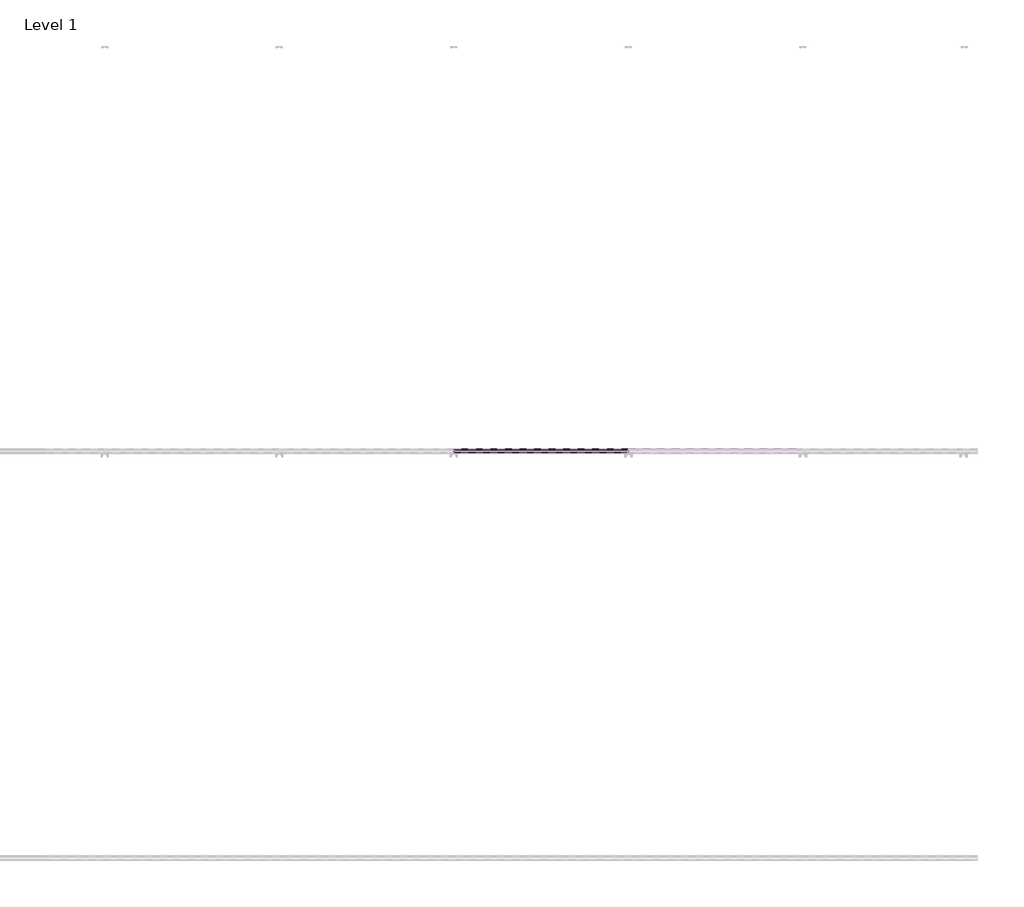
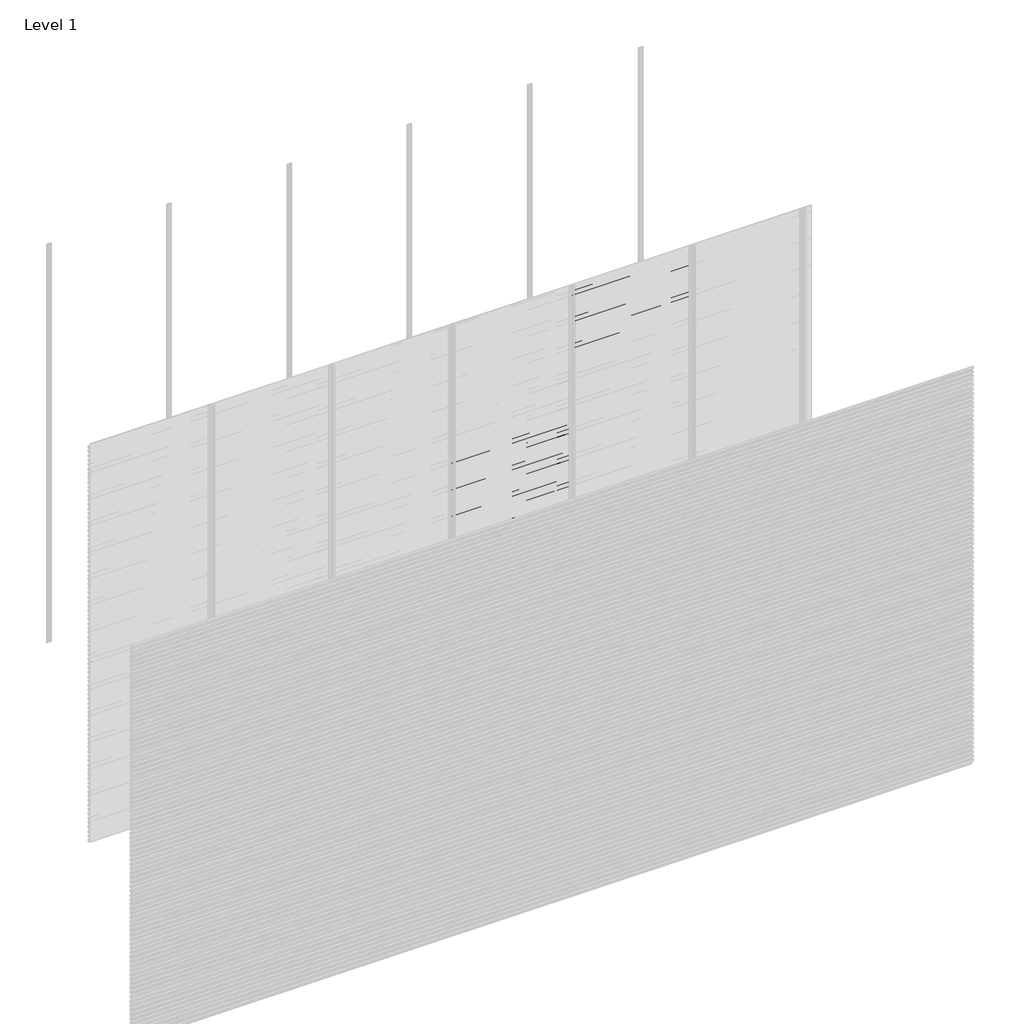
# One storey, part 85 of 96: 77 proxies.
"""IFC4 building model written with IfcOpenShell, lengths in millimetres."""

import ifcopenshell
import ifcopenshell.guid

model = None  # the IFC model being written
_history = None  # IfcOwnerHistory: only IFC2X3 demands one
_inside = {}  # id of a spatial element -> (the spatial element, [elements in it])
_under = {}  # id of a project, library or spatial element -> (it, [spatial elements below it])
_declared = {}  # id of a project -> (the project, [libraries it declares])
_typed = {}  # id of a type object -> (the type object, [elements of that type])
_made_of = {}  # id of a material, layer set ... -> (it, [elements and type objects made of it])


def new_model(schema):
    """Start an empty IFC model of exactly this schema.

    Asked for "IFC4X3", IfcOpenShell would pick the latest addendum, in which some entities
    have other attributes; the version numbers below select the first issue.
    IFC2X3 requires an IfcOwnerHistory on every rooted entity: one is made here for all.
    """
    global model, _history
    if schema == "IFC4X3":
        model = ifcopenshell.file(schema_version=(4, 3, 0, 0))
    else:
        model = ifcopenshell.file(schema=schema)
    _inside.clear()
    _under.clear()
    _declared.clear()
    _typed.clear()
    _made_of.clear()
    _history = None
    if model.schema == "IFC2X3":
        org = make("IfcOrganization", Name="unknown")
        user = make(
            "IfcPersonAndOrganization",
            ThePerson=make("IfcPerson", FamilyName="unknown"),
            TheOrganization=org,
        )
        app = make(
            "IfcApplication",
            ApplicationDeveloper=org,
            Version="unknown",
            ApplicationFullName="unknown",
            ApplicationIdentifier="unknown",
        )
        _history = make(
            "IfcOwnerHistory",
            OwningUser=user,
            OwningApplication=app,
            ChangeAction="ADDED",
            CreationDate=0,
        )
    return model


def make(cls, **values):
    """One entity of the class cls with the attributes given. An attribute that is None is left unset."""
    return model.create_entity(
        cls, **{name: value for name, value in values.items() if value is not None}
    )


def rooted(cls, **values):
    """An entity with a GlobalId (a new one), such as an element, a storey or a relation."""
    return make(cls, GlobalId=ifcopenshell.guid.new(), OwnerHistory=_history, **values)


def si_unit(unit_type, name, prefix=None):
    """IfcSIUnit, for example si_unit("LENGTHUNIT", "METRE", prefix="MILLI")."""
    return make("IfcSIUnit", UnitType=unit_type, Prefix=prefix, Name=name)


def assignment(units):
    """IfcUnitAssignment: the units of a project."""
    return None if units is None else make("IfcUnitAssignment", Units=units)


def point(xyz):
    """IfcCartesianPoint."""
    return None if xyz is None else make("IfcCartesianPoint", Coordinates=xyz)


def direction(xyz):
    """IfcDirection."""
    return None if xyz is None else make("IfcDirection", DirectionRatios=xyz)


def frame(location, z_axis=None, x_axis=None):
    """IfcAxis2Placement3D, a coordinate frame: its origin and axes. An axis left out is left unset."""
    return make(
        "IfcAxis2Placement3D",
        Location=point(location),
        Axis=direction(z_axis),
        RefDirection=direction(x_axis),
    )


def origin():
    """The frame at (0, 0, 0) with its axes left unset."""
    return frame((0.0, 0.0, 0.0))


def place(relative_to, where):
    """IfcLocalPlacement: puts the frame where relative to a parent placement (None: the world)."""
    return make(
        "IfcLocalPlacement", PlacementRelTo=relative_to, RelativePlacement=where
    )


def context(
    kind, dimensions, precision=None, world=None, true_north=None, identifier=None
):
    """IfcGeometricRepresentationContext, for example the 3D "Model" context."""
    return make(
        "IfcGeometricRepresentationContext",
        ContextIdentifier=identifier,
        ContextType=kind,
        CoordinateSpaceDimension=dimensions,
        Precision=precision,
        WorldCoordinateSystem=world,
        TrueNorth=true_north,
    )


def project(units=None, contexts=None):
    """IfcProject with its units and contexts."""
    return rooted(
        "IfcProject",
        Name="project",
        RepresentationContexts=contexts,
        UnitsInContext=assignment(units),
    )


def spatial(cls, under=None, at=None, **own):
    """A site, building, storey or space (cls), placed at a placement, below another one or the project."""
    s = rooted(cls, ObjectPlacement=at, **own)
    if under is not None:
        _under.setdefault(under.id(), (under, []))[1].append(s)
    return s


def polyline(points):
    """IfcPolyline through the points."""
    return make("IfcPolyline", Points=[point(p) for p in points])


def outline(outer, holes=None, kind="AREA"):
    """IfcArbitraryClosedProfileDef: a profile drawn as a closed curve; with holes, ...WithVoids."""
    if holes is None:
        return make("IfcArbitraryClosedProfileDef", ProfileType=kind, OuterCurve=outer)
    return make(
        "IfcArbitraryProfileDefWithVoids",
        ProfileType=kind,
        OuterCurve=outer,
        InnerCurves=holes,
    )


def extrude(swept, where, along, depth):
    """IfcExtrudedAreaSolid: the profile swept, set in the frame where, extruded along a direction by depth."""
    return make(
        "IfcExtrudedAreaSolid",
        SweptArea=swept,
        Position=where,
        ExtrudedDirection=direction(along),
        Depth=depth,
    )


def shape(context_of_items, identifier, shape_type, items):
    """IfcShapeRepresentation: the items that make up one representation, for example the "Body"."""
    return make(
        "IfcShapeRepresentation",
        ContextOfItems=context_of_items,
        RepresentationIdentifier=identifier,
        RepresentationType=shape_type,
        Items=items,
    )


def made_of(thing, what):
    """Note that an element or type object is made of a material, layer set ...; save() writes the relation."""
    if what is not None:
        _made_of.setdefault(what.id(), (what, []))[1].append(thing)
    return thing


def element(
    cls,
    number,
    at=None,
    inside=None,
    cuts=None,
    type_object=None,
    material=None,
    context=None,
    identifier="Body",
    shape_type=None,
    held_by="IfcProductDefinitionShape",
    body=None,
    shapes=None,
    **own,
):
    """One element of the class cls, such as IfcWall. Its Tag is "e" and its number.

    at: its placement. inside: the storey or other place that contains it. cuts: it is an
    opening in that element (IfcRelVoidsElement). A single representation is given by context,
    identifier, shape_type and body (its items); several are given by shapes. held_by: the class
    of the entity that holds the representations. save() writes the other relations.
    """
    e = rooted(cls, Tag="e%d" % number, ObjectPlacement=at, **own)
    if body is not None:
        shapes = [shape(context, identifier, shape_type, body)]
    if shapes is not None:
        e.Representation = make(held_by, Representations=shapes)
    if inside is not None:
        _inside.setdefault(inside.id(), (inside, []))[1].append(e)
    if cuts is not None:
        rooted(
            "IfcRelVoidsElement", RelatingBuildingElement=cuts, RelatedOpeningElement=e
        )
    if type_object is not None:
        _typed.setdefault(type_object.id(), (type_object, []))[1].append(e)
    return made_of(e, material)


def aggregate(whole, parts):
    """IfcRelAggregates: a whole, such as a stair, and the parts it consists of."""
    return rooted("IfcRelAggregates", RelatingObject=whole, RelatedObjects=parts)


def save(model, path):
    """Write the relations noted so far, then the file.

    IfcRelAggregates (storeys below a building ...), IfcRelContainedInSpatialStructure (elements
    in a storey), IfcRelDefinesByType, IfcRelAssociatesMaterial and IfcRelDeclares: one each for
    every whole, place, type object, material and project.
    """
    for whole, parts in _under.values():
        aggregate(whole, parts)
    for where, things in _inside.values():
        rooted(
            "IfcRelContainedInSpatialStructure",
            RelatedElements=things,
            RelatingStructure=where,
        )
    for kind, things in _typed.values():
        rooted("IfcRelDefinesByType", RelatedObjects=things, RelatingType=kind)
    for what, things in _made_of.values():
        rooted("IfcRelAssociatesMaterial", RelatedObjects=things, RelatingMaterial=what)
    for by, libraries in _declared.values():
        rooted("IfcRelDeclares", RelatingContext=by, RelatedDefinitions=libraries)
    model.write(path)


model = new_model("IFC4")

# Units and contexts
model_context = context("Model", 3, world=origin())
ifc_project = project(units=[si_unit("LENGTHUNIT", "METRE", prefix="MILLI")], contexts=[model_context])

# Site, building, storey
site = spatial("IfcSite", under=ifc_project)
building = spatial("IfcBuilding", under=site)
storey = spatial("IfcBuildingStorey", under=building, Name="Level 1", Elevation=0.0)

# Proxies
placement = place(None, origin())
element("IfcBuildingElementProxy", 1, Name="Wall Sweeps", at=placement, inside=storey, context=model_context, shape_type="SweptSolid", body=[
    extrude(outline(polyline([(-5977.6, 2006.0655033), (-5977.6, 1991.7779188), (-5982.4114965, 1989.0), (-5982.4114965, 1990.2701706), (-5978.85, 1992.3264016), (-5978.85, 2005.3437382), (-5998.0, 2016.4000799), (-5998.0, 2031.3), (-5996.75, 2031.3), (-5996.75, 2017.1217609), (-5977.6, 2006.0655033)])), frame((3428.5714286, 0.0, 0.0), z_axis=(1.0, 0.0, 0.0), x_axis=(0.0, 1.0, 0.0)), (0.0, 0.0, 1.0), 857.1428571),
])
element("IfcBuildingElementProxy", 2, Name="Wall Sweeps", at=placement, inside=storey, context=model_context, shape_type="SweptSolid", body=[
    extrude(outline(polyline([(-5977.6, 1972.7655033), (-5977.6, 1958.4779188), (-5982.4114965, 1955.7), (-5982.4114965, 1956.9701706), (-5978.85, 1959.0264016), (-5978.85, 1972.0437382), (-5998.0, 1983.1000799), (-5998.0, 1998.0), (-5996.75, 1998.0), (-5996.75, 1983.8217609), (-5977.6, 1972.7655033)])), frame((3428.5714286, 0.0, 0.0), z_axis=(1.0, 0.0, 0.0), x_axis=(0.0, 1.0, 0.0)), (0.0, 0.0, 1.0), 857.1428571),
])
element("IfcBuildingElementProxy", 3, Name="Wall Sweeps", at=placement, inside=storey, context=model_context, shape_type="SweptSolid", body=[
    extrude(outline(polyline([(-5977.6, 1939.4655033), (-5977.6, 1925.1779188), (-5982.4114965, 1922.4), (-5982.4114965, 1923.6701706), (-5978.85, 1925.7264016), (-5978.85, 1938.7437382), (-5998.0, 1949.8000799), (-5998.0, 1964.7), (-5996.75, 1964.7), (-5996.75, 1950.5217609), (-5977.6, 1939.4655033)])), frame((3428.5714286, 0.0, 0.0), z_axis=(1.0, 0.0, 0.0), x_axis=(0.0, 1.0, 0.0)), (0.0, 0.0, 1.0), 857.1428571),
])
element("IfcBuildingElementProxy", 4, Name="Wall Sweeps", at=placement, inside=storey, context=model_context, shape_type="SweptSolid", body=[
    extrude(outline(polyline([(-5977.6, 1906.1655033), (-5977.6, 1891.8779188), (-5982.4114965, 1889.1), (-5982.4114965, 1890.3701706), (-5978.85, 1892.4264016), (-5978.85, 1905.4437382), (-5998.0, 1916.5000799), (-5998.0, 1931.4), (-5996.75, 1931.4), (-5996.75, 1917.2217609), (-5977.6, 1906.1655033)])), frame((3428.5714286, 0.0, 0.0), z_axis=(1.0, 0.0, 0.0), x_axis=(0.0, 1.0, 0.0)), (0.0, 0.0, 1.0), 857.1428571),
])
element("IfcBuildingElementProxy", 5, Name="Wall Sweeps", at=placement, inside=storey, context=model_context, shape_type="SweptSolid", body=[
    extrude(outline(polyline([(-5977.6, 1872.8655033), (-5977.6, 1858.5779188), (-5982.4114965, 1855.8), (-5982.4114965, 1857.0701706), (-5978.85, 1859.1264016), (-5978.85, 1872.1437382), (-5998.0, 1883.2000799), (-5998.0, 1898.1), (-5996.75, 1898.1), (-5996.75, 1883.9217609), (-5977.6, 1872.8655033)])), frame((3428.5714286, 0.0, 0.0), z_axis=(1.0, 0.0, 0.0), x_axis=(0.0, 1.0, 0.0)), (0.0, 0.0, 1.0), 857.1428571),
])
element("IfcBuildingElementProxy", 6, Name="Wall Sweeps", at=placement, inside=storey, context=model_context, shape_type="SweptSolid", body=[
    extrude(outline(polyline([(-5977.6, 1839.5655033), (-5977.6, 1825.2779188), (-5982.4114965, 1822.5), (-5982.4114965, 1823.7701706), (-5978.85, 1825.8264016), (-5978.85, 1838.8437382), (-5998.0, 1849.9000799), (-5998.0, 1864.8), (-5996.75, 1864.8), (-5996.75, 1850.6217609), (-5977.6, 1839.5655033)])), frame((3428.5714286, 0.0, 0.0), z_axis=(1.0, 0.0, 0.0), x_axis=(0.0, 1.0, 0.0)), (0.0, 0.0, 1.0), 857.1428571),
])
element("IfcBuildingElementProxy", 7, Name="Wall Sweeps", at=placement, inside=storey, context=model_context, shape_type="SweptSolid", body=[
    extrude(outline(polyline([(-5977.6, 1806.2655033), (-5977.6, 1791.9779188), (-5982.4114965, 1789.2), (-5982.4114965, 1790.4701706), (-5978.85, 1792.5264016), (-5978.85, 1805.5437382), (-5998.0, 1816.6000799), (-5998.0, 1831.5), (-5996.75, 1831.5), (-5996.75, 1817.3217609), (-5977.6, 1806.2655033)])), frame((3428.5714286, 0.0, 0.0), z_axis=(1.0, 0.0, 0.0), x_axis=(0.0, 1.0, 0.0)), (0.0, 0.0, 1.0), 857.1428571),
])
element("IfcBuildingElementProxy", 8, Name="Wall Sweeps", at=placement, inside=storey, context=model_context, shape_type="SweptSolid", body=[
    extrude(outline(polyline([(-5977.6, 1772.9655033), (-5977.6, 1758.6779188), (-5982.4114965, 1755.9), (-5982.4114965, 1757.1701706), (-5978.85, 1759.2264016), (-5978.85, 1772.2437382), (-5998.0, 1783.3000799), (-5998.0, 1798.2), (-5996.75, 1798.2), (-5996.75, 1784.0217609), (-5977.6, 1772.9655033)])), frame((3428.5714286, 0.0, 0.0), z_axis=(1.0, 0.0, 0.0), x_axis=(0.0, 1.0, 0.0)), (0.0, 0.0, 1.0), 857.1428571),
])
element("IfcBuildingElementProxy", 9, Name="Wall Sweeps", at=placement, inside=storey, context=model_context, shape_type="SweptSolid", body=[
    extrude(outline(polyline([(-5977.6, 1739.6655033), (-5977.6, 1725.3779188), (-5982.4114965, 1722.6), (-5982.4114965, 1723.8701706), (-5978.85, 1725.9264016), (-5978.85, 1738.9437382), (-5998.0, 1750.0000799), (-5998.0, 1764.9), (-5996.75, 1764.9), (-5996.75, 1750.7217609), (-5977.6, 1739.6655033)])), frame((3428.5714286, 0.0, 0.0), z_axis=(1.0, 0.0, 0.0), x_axis=(0.0, 1.0, 0.0)), (0.0, 0.0, 1.0), 857.1428571),
])
element("IfcBuildingElementProxy", 10, Name="Wall Sweeps", at=placement, inside=storey, context=model_context, shape_type="SweptSolid", body=[
    extrude(outline(polyline([(-5977.6, 1706.3655033), (-5977.6, 1692.0779188), (-5982.4114965, 1689.3), (-5982.4114965, 1690.5701706), (-5978.85, 1692.6264016), (-5978.85, 1705.6437382), (-5998.0, 1716.7000799), (-5998.0, 1731.6), (-5996.75, 1731.6), (-5996.75, 1717.4217609), (-5977.6, 1706.3655033)])), frame((3428.5714286, 0.0, 0.0), z_axis=(1.0, 0.0, 0.0), x_axis=(0.0, 1.0, 0.0)), (0.0, 0.0, 1.0), 857.1428571),
])
element("IfcBuildingElementProxy", 11, Name="Wall Sweeps", at=placement, inside=storey, context=model_context, shape_type="SweptSolid", body=[
    extrude(outline(polyline([(-5977.6, 1673.0655033), (-5977.6, 1658.7779188), (-5982.4114965, 1656.0), (-5982.4114965, 1657.2701706), (-5978.85, 1659.3264016), (-5978.85, 1672.3437382), (-5998.0, 1683.4000799), (-5998.0, 1698.3), (-5996.75, 1698.3), (-5996.75, 1684.1217609), (-5977.6, 1673.0655033)])), frame((3428.5714286, 0.0, 0.0), z_axis=(1.0, 0.0, 0.0), x_axis=(0.0, 1.0, 0.0)), (0.0, 0.0, 1.0), 857.1428571),
])
element("IfcBuildingElementProxy", 12, Name="Wall Sweeps", at=placement, inside=storey, context=model_context, shape_type="SweptSolid", body=[
    extrude(outline(polyline([(-5977.6, 1639.7655033), (-5977.6, 1625.4779188), (-5982.4114965, 1622.7), (-5982.4114965, 1623.9701706), (-5978.85, 1626.0264016), (-5978.85, 1639.0437382), (-5998.0, 1650.1000799), (-5998.0, 1665.0), (-5996.75, 1665.0), (-5996.75, 1650.8217609), (-5977.6, 1639.7655033)])), frame((3428.5714286, 0.0, 0.0), z_axis=(1.0, 0.0, 0.0), x_axis=(0.0, 1.0, 0.0)), (0.0, 0.0, 1.0), 857.1428571),
])
element("IfcBuildingElementProxy", 13, Name="Wall Sweeps", at=placement, inside=storey, context=model_context, shape_type="SweptSolid", body=[
    extrude(outline(polyline([(-5977.6, 1606.4655033), (-5977.6, 1592.1779188), (-5982.4114965, 1589.4), (-5982.4114965, 1590.6701706), (-5978.85, 1592.7264016), (-5978.85, 1605.7437382), (-5998.0, 1616.8000799), (-5998.0, 1631.7), (-5996.75, 1631.7), (-5996.75, 1617.5217609), (-5977.6, 1606.4655033)])), frame((3428.5714286, 0.0, 0.0), z_axis=(1.0, 0.0, 0.0), x_axis=(0.0, 1.0, 0.0)), (0.0, 0.0, 1.0), 857.1428571),
])
element("IfcBuildingElementProxy", 14, Name="Wall Sweeps", at=placement, inside=storey, context=model_context, shape_type="SweptSolid", body=[
    extrude(outline(polyline([(-5977.6, 1573.1655033), (-5977.6, 1558.8779188), (-5982.4114965, 1556.1), (-5982.4114965, 1557.3701706), (-5978.85, 1559.4264016), (-5978.85, 1572.4437382), (-5998.0, 1583.5000799), (-5998.0, 1598.4), (-5996.75, 1598.4), (-5996.75, 1584.2217609), (-5977.6, 1573.1655033)])), frame((3428.5714286, 0.0, 0.0), z_axis=(1.0, 0.0, 0.0), x_axis=(0.0, 1.0, 0.0)), (0.0, 0.0, 1.0), 857.1428571),
])
element("IfcBuildingElementProxy", 15, Name="Wall Sweeps", at=placement, inside=storey, context=model_context, shape_type="SweptSolid", body=[
    extrude(outline(polyline([(-5977.6, 1539.8655033), (-5977.6, 1525.5779188), (-5982.4114965, 1522.8), (-5982.4114965, 1524.0701706), (-5978.85, 1526.1264016), (-5978.85, 1539.1437382), (-5998.0, 1550.2000799), (-5998.0, 1565.1), (-5996.75, 1565.1), (-5996.75, 1550.9217609), (-5977.6, 1539.8655033)])), frame((3428.5714286, 0.0, 0.0), z_axis=(1.0, 0.0, 0.0), x_axis=(0.0, 1.0, 0.0)), (0.0, 0.0, 1.0), 857.1428571),
])
element("IfcBuildingElementProxy", 16, Name="Wall Sweeps", at=placement, inside=storey, context=model_context, shape_type="SweptSolid", body=[
    extrude(outline(polyline([(-5977.6, 1506.5655033), (-5977.6, 1492.2779188), (-5982.4114965, 1489.5), (-5982.4114965, 1490.7701706), (-5978.85, 1492.8264016), (-5978.85, 1505.8437382), (-5998.0, 1516.9000799), (-5998.0, 1531.8), (-5996.75, 1531.8), (-5996.75, 1517.6217609), (-5977.6, 1506.5655033)])), frame((3428.5714286, 0.0, 0.0), z_axis=(1.0, 0.0, 0.0), x_axis=(0.0, 1.0, 0.0)), (0.0, 0.0, 1.0), 857.1428571),
])
element("IfcBuildingElementProxy", 17, Name="Wall Sweeps", at=placement, inside=storey, context=model_context, shape_type="SweptSolid", body=[
    extrude(outline(polyline([(-5977.6, 1473.2655033), (-5977.6, 1458.9779188), (-5982.4114965, 1456.2), (-5982.4114965, 1457.4701706), (-5978.85, 1459.5264016), (-5978.85, 1472.5437382), (-5998.0, 1483.6000799), (-5998.0, 1498.5), (-5996.75, 1498.5), (-5996.75, 1484.3217609), (-5977.6, 1473.2655033)])), frame((3428.5714286, 0.0, 0.0), z_axis=(1.0, 0.0, 0.0), x_axis=(0.0, 1.0, 0.0)), (0.0, 0.0, 1.0), 857.1428571),
])
element("IfcBuildingElementProxy", 18, Name="Wall Sweeps", at=placement, inside=storey, context=model_context, shape_type="SweptSolid", body=[
    extrude(outline(polyline([(-5977.6, 1439.9655033), (-5977.6, 1425.6779188), (-5982.4114965, 1422.9), (-5982.4114965, 1424.1701706), (-5978.85, 1426.2264016), (-5978.85, 1439.2437382), (-5998.0, 1450.3000799), (-5998.0, 1465.2), (-5996.75, 1465.2), (-5996.75, 1451.0217609), (-5977.6, 1439.9655033)])), frame((3428.5714286, 0.0, 0.0), z_axis=(1.0, 0.0, 0.0), x_axis=(0.0, 1.0, 0.0)), (0.0, 0.0, 1.0), 857.1428571),
])
element("IfcBuildingElementProxy", 19, Name="Wall Sweeps", at=placement, inside=storey, context=model_context, shape_type="SweptSolid", body=[
    extrude(outline(polyline([(-5977.6, 1406.6655033), (-5977.6, 1392.3779188), (-5982.4114965, 1389.6), (-5982.4114965, 1390.8701706), (-5978.85, 1392.9264016), (-5978.85, 1405.9437382), (-5998.0, 1417.0000799), (-5998.0, 1431.9), (-5996.75, 1431.9), (-5996.75, 1417.7217609), (-5977.6, 1406.6655033)])), frame((3428.5714286, 0.0, 0.0), z_axis=(1.0, 0.0, 0.0), x_axis=(0.0, 1.0, 0.0)), (0.0, 0.0, 1.0), 857.1428571),
])
element("IfcBuildingElementProxy", 20, Name="Wall Sweeps", at=placement, inside=storey, context=model_context, shape_type="SweptSolid", body=[
    extrude(outline(polyline([(-5977.6, 1373.3655033), (-5977.6, 1359.0779188), (-5982.4114965, 1356.3), (-5982.4114965, 1357.5701706), (-5978.85, 1359.6264016), (-5978.85, 1372.6437382), (-5998.0, 1383.7000799), (-5998.0, 1398.6), (-5996.75, 1398.6), (-5996.75, 1384.4217609), (-5977.6, 1373.3655033)])), frame((3428.5714286, 0.0, 0.0), z_axis=(1.0, 0.0, 0.0), x_axis=(0.0, 1.0, 0.0)), (0.0, 0.0, 1.0), 857.1428571),
])
element("IfcBuildingElementProxy", 21, Name="Wall Sweeps", at=placement, inside=storey, context=model_context, shape_type="SweptSolid", body=[
    extrude(outline(polyline([(-5977.6, 1340.0655033), (-5977.6, 1325.7779188), (-5982.4114965, 1323.0), (-5982.4114965, 1324.2701706), (-5978.85, 1326.3264016), (-5978.85, 1339.3437382), (-5998.0, 1350.4000799), (-5998.0, 1365.3), (-5996.75, 1365.3), (-5996.75, 1351.1217609), (-5977.6, 1340.0655033)])), frame((3428.5714286, 0.0, 0.0), z_axis=(1.0, 0.0, 0.0), x_axis=(0.0, 1.0, 0.0)), (0.0, 0.0, 1.0), 857.1428571),
])
element("IfcBuildingElementProxy", 22, Name="Wall Sweeps", at=placement, inside=storey, context=model_context, shape_type="SweptSolid", body=[
    extrude(outline(polyline([(-5977.6, 1306.7655033), (-5977.6, 1292.4779188), (-5982.4114965, 1289.7), (-5982.4114965, 1290.9701706), (-5978.85, 1293.0264016), (-5978.85, 1306.0437382), (-5998.0, 1317.1000799), (-5998.0, 1332.0), (-5996.75, 1332.0), (-5996.75, 1317.8217609), (-5977.6, 1306.7655033)])), frame((3428.5714286, 0.0, 0.0), z_axis=(1.0, 0.0, 0.0), x_axis=(0.0, 1.0, 0.0)), (0.0, 0.0, 1.0), 857.1428571),
])
element("IfcBuildingElementProxy", 23, Name="Wall Sweeps", at=placement, inside=storey, context=model_context, shape_type="SweptSolid", body=[
    extrude(outline(polyline([(-5977.6, 1273.4655033), (-5977.6, 1259.1779188), (-5982.4114965, 1256.4), (-5982.4114965, 1257.6701706), (-5978.85, 1259.7264016), (-5978.85, 1272.7437382), (-5998.0, 1283.8000799), (-5998.0, 1298.7), (-5996.75, 1298.7), (-5996.75, 1284.5217609), (-5977.6, 1273.4655033)])), frame((3428.5714286, 0.0, 0.0), z_axis=(1.0, 0.0, 0.0), x_axis=(0.0, 1.0, 0.0)), (0.0, 0.0, 1.0), 857.1428571),
])
element("IfcBuildingElementProxy", 24, Name="Wall Sweeps", at=placement, inside=storey, context=model_context, shape_type="SweptSolid", body=[
    extrude(outline(polyline([(-5977.6, 1240.1655033), (-5977.6, 1225.8779188), (-5982.4114965, 1223.1), (-5982.4114965, 1224.3701706), (-5978.85, 1226.4264016), (-5978.85, 1239.4437382), (-5998.0, 1250.5000799), (-5998.0, 1265.4), (-5996.75, 1265.4), (-5996.75, 1251.2217609), (-5977.6, 1240.1655033)])), frame((3428.5714286, 0.0, 0.0), z_axis=(1.0, 0.0, 0.0), x_axis=(0.0, 1.0, 0.0)), (0.0, 0.0, 1.0), 857.1428571),
])
element("IfcBuildingElementProxy", 25, Name="Wall Sweeps", at=placement, inside=storey, context=model_context, shape_type="SweptSolid", body=[
    extrude(outline(polyline([(-5977.6, 1206.8655033), (-5977.6, 1192.5779188), (-5982.4114965, 1189.8), (-5982.4114965, 1191.0701706), (-5978.85, 1193.1264016), (-5978.85, 1206.1437382), (-5998.0, 1217.2000799), (-5998.0, 1232.1), (-5996.75, 1232.1), (-5996.75, 1217.9217609), (-5977.6, 1206.8655033)])), frame((3428.5714286, 0.0, 0.0), z_axis=(1.0, 0.0, 0.0), x_axis=(0.0, 1.0, 0.0)), (0.0, 0.0, 1.0), 857.1428571),
])
element("IfcBuildingElementProxy", 26, Name="Wall Sweeps", at=placement, inside=storey, context=model_context, shape_type="SweptSolid", body=[
    extrude(outline(polyline([(-5977.6, 1173.5655033), (-5977.6, 1159.2779188), (-5982.4114965, 1156.5), (-5982.4114965, 1157.7701706), (-5978.85, 1159.8264016), (-5978.85, 1172.8437382), (-5998.0, 1183.9000799), (-5998.0, 1198.8), (-5996.75, 1198.8), (-5996.75, 1184.6217609), (-5977.6, 1173.5655033)])), frame((3428.5714286, 0.0, 0.0), z_axis=(1.0, 0.0, 0.0), x_axis=(0.0, 1.0, 0.0)), (0.0, 0.0, 1.0), 857.1428571),
])
element("IfcBuildingElementProxy", 27, Name="Wall Sweeps", at=placement, inside=storey, context=model_context, shape_type="SweptSolid", body=[
    extrude(outline(polyline([(-5977.6, 1140.2655033), (-5977.6, 1125.9779188), (-5982.4114965, 1123.2), (-5982.4114965, 1124.4701706), (-5978.85, 1126.5264016), (-5978.85, 1139.5437382), (-5998.0, 1150.6000799), (-5998.0, 1165.5), (-5996.75, 1165.5), (-5996.75, 1151.3217609), (-5977.6, 1140.2655033)])), frame((3428.5714286, 0.0, 0.0), z_axis=(1.0, 0.0, 0.0), x_axis=(0.0, 1.0, 0.0)), (0.0, 0.0, 1.0), 857.1428571),
])
element("IfcBuildingElementProxy", 28, Name="Wall Sweeps", at=placement, inside=storey, context=model_context, shape_type="SweptSolid", body=[
    extrude(outline(polyline([(-5977.6, 1106.9655033), (-5977.6, 1092.6779188), (-5982.4114965, 1089.9), (-5982.4114965, 1091.1701706), (-5978.85, 1093.2264016), (-5978.85, 1106.2437382), (-5998.0, 1117.3000799), (-5998.0, 1132.2), (-5996.75, 1132.2), (-5996.75, 1118.0217609), (-5977.6, 1106.9655033)])), frame((3428.5714286, 0.0, 0.0), z_axis=(1.0, 0.0, 0.0), x_axis=(0.0, 1.0, 0.0)), (0.0, 0.0, 1.0), 857.1428571),
])
element("IfcBuildingElementProxy", 29, Name="Wall Sweeps", at=placement, inside=storey, context=model_context, shape_type="SweptSolid", body=[
    extrude(outline(polyline([(-5977.6, 1073.6655033), (-5977.6, 1059.3779188), (-5982.4114965, 1056.6), (-5982.4114965, 1057.8701706), (-5978.85, 1059.9264016), (-5978.85, 1072.9437382), (-5998.0, 1084.0000799), (-5998.0, 1098.9), (-5996.75, 1098.9), (-5996.75, 1084.7217609), (-5977.6, 1073.6655033)])), frame((3428.5714286, 0.0, 0.0), z_axis=(1.0, 0.0, 0.0), x_axis=(0.0, 1.0, 0.0)), (0.0, 0.0, 1.0), 857.1428571),
])
element("IfcBuildingElementProxy", 30, Name="Wall Sweeps", at=placement, inside=storey, context=model_context, shape_type="SweptSolid", body=[
    extrude(outline(polyline([(-5977.6, 1040.3655033), (-5977.6, 1026.0779188), (-5982.4114965, 1023.3), (-5982.4114965, 1024.5701706), (-5978.85, 1026.6264016), (-5978.85, 1039.6437382), (-5998.0, 1050.7000799), (-5998.0, 1065.6), (-5996.75, 1065.6), (-5996.75, 1051.4217609), (-5977.6, 1040.3655033)])), frame((3428.5714286, 0.0, 0.0), z_axis=(1.0, 0.0, 0.0), x_axis=(0.0, 1.0, 0.0)), (0.0, 0.0, 1.0), 857.1428571),
])
element("IfcBuildingElementProxy", 31, Name="Wall Sweeps", at=placement, inside=storey, context=model_context, shape_type="SweptSolid", body=[
    extrude(outline(polyline([(-5977.6, 1007.0655033), (-5977.6, 992.7779188), (-5982.4114965, 990.0), (-5982.4114965, 991.2701706), (-5978.85, 993.3264016), (-5978.85, 1006.3437382), (-5998.0, 1017.4000799), (-5998.0, 1032.3), (-5996.75, 1032.3), (-5996.75, 1018.1217609), (-5977.6, 1007.0655033)])), frame((3428.5714286, 0.0, 0.0), z_axis=(1.0, 0.0, 0.0), x_axis=(0.0, 1.0, 0.0)), (0.0, 0.0, 1.0), 857.1428571),
])
element("IfcBuildingElementProxy", 32, Name="Wall Sweeps", at=placement, inside=storey, context=model_context, shape_type="SweptSolid", body=[
    extrude(outline(polyline([(-5977.6, 973.7655033), (-5977.6, 959.4779188), (-5982.4114965, 956.7), (-5982.4114965, 957.9701706), (-5978.85, 960.0264016), (-5978.85, 973.0437382), (-5998.0, 984.1000799), (-5998.0, 999.0), (-5996.75, 999.0), (-5996.75, 984.8217609), (-5977.6, 973.7655033)])), frame((3428.5714286, 0.0, 0.0), z_axis=(1.0, 0.0, 0.0), x_axis=(0.0, 1.0, 0.0)), (0.0, 0.0, 1.0), 857.1428571),
])
element("IfcBuildingElementProxy", 33, Name="Wall Sweeps", at=placement, inside=storey, context=model_context, shape_type="SweptSolid", body=[
    extrude(outline(polyline([(-5977.6, 940.4655033), (-5977.6, 926.1779188), (-5982.4114965, 923.4), (-5982.4114965, 924.6701706), (-5978.85, 926.7264016), (-5978.85, 939.7437382), (-5998.0, 950.8000799), (-5998.0, 965.7), (-5996.75, 965.7), (-5996.75, 951.5217609), (-5977.6, 940.4655033)])), frame((3428.5714286, 0.0, 0.0), z_axis=(1.0, 0.0, 0.0), x_axis=(0.0, 1.0, 0.0)), (0.0, 0.0, 1.0), 857.1428571),
])
element("IfcBuildingElementProxy", 34, Name="Wall Sweeps", at=placement, inside=storey, context=model_context, shape_type="SweptSolid", body=[
    extrude(outline(polyline([(-5977.6, 907.1655033), (-5977.6, 892.8779188), (-5982.4114965, 890.1), (-5982.4114965, 891.3701706), (-5978.85, 893.4264016), (-5978.85, 906.4437382), (-5998.0, 917.5000799), (-5998.0, 932.4), (-5996.75, 932.4), (-5996.75, 918.2217609), (-5977.6, 907.1655033)])), frame((3428.5714286, 0.0, 0.0), z_axis=(1.0, 0.0, 0.0), x_axis=(0.0, 1.0, 0.0)), (0.0, 0.0, 1.0), 857.1428571),
])
element("IfcBuildingElementProxy", 35, Name="Wall Sweeps", at=placement, inside=storey, context=model_context, shape_type="SweptSolid", body=[
    extrude(outline(polyline([(-5977.6, 873.8655033), (-5977.6, 859.5779188), (-5982.4114965, 856.8), (-5982.4114965, 858.0701706), (-5978.85, 860.1264016), (-5978.85, 873.1437382), (-5998.0, 884.2000799), (-5998.0, 899.1), (-5996.75, 899.1), (-5996.75, 884.9217609), (-5977.6, 873.8655033)])), frame((3428.5714286, 0.0, 0.0), z_axis=(1.0, 0.0, 0.0), x_axis=(0.0, 1.0, 0.0)), (0.0, 0.0, 1.0), 857.1428571),
])
element("IfcBuildingElementProxy", 36, Name="Wall Sweeps", at=placement, inside=storey, context=model_context, shape_type="SweptSolid", body=[
    extrude(outline(polyline([(-5977.6, 840.5655033), (-5977.6, 826.2779188), (-5982.4114965, 823.5), (-5982.4114965, 824.7701706), (-5978.85, 826.8264016), (-5978.85, 839.8437382), (-5998.0, 850.9000799), (-5998.0, 865.8), (-5996.75, 865.8), (-5996.75, 851.6217609), (-5977.6, 840.5655033)])), frame((3428.5714286, 0.0, 0.0), z_axis=(1.0, 0.0, 0.0), x_axis=(0.0, 1.0, 0.0)), (0.0, 0.0, 1.0), 857.1428571),
])
element("IfcBuildingElementProxy", 37, Name="Wall Sweeps", at=placement, inside=storey, context=model_context, shape_type="SweptSolid", body=[
    extrude(outline(polyline([(-5977.6, 807.2655033), (-5977.6, 792.9779188), (-5982.4114965, 790.2), (-5982.4114965, 791.4701706), (-5978.85, 793.5264016), (-5978.85, 806.5437382), (-5998.0, 817.6000799), (-5998.0, 832.5), (-5996.75, 832.5), (-5996.75, 818.3217609), (-5977.6, 807.2655033)])), frame((3428.5714286, 0.0, 0.0), z_axis=(1.0, 0.0, 0.0), x_axis=(0.0, 1.0, 0.0)), (0.0, 0.0, 1.0), 857.1428571),
])
element("IfcBuildingElementProxy", 38, Name="Wall Sweeps", at=placement, inside=storey, context=model_context, shape_type="SweptSolid", body=[
    extrude(outline(polyline([(-5977.6, 773.9655033), (-5977.6, 759.6779188), (-5982.4114965, 756.9), (-5982.4114965, 758.1701706), (-5978.85, 760.2264016), (-5978.85, 773.2437382), (-5998.0, 784.3000799), (-5998.0, 799.2), (-5996.75, 799.2), (-5996.75, 785.0217609), (-5977.6, 773.9655033)])), frame((3428.5714286, 0.0, 0.0), z_axis=(1.0, 0.0, 0.0), x_axis=(0.0, 1.0, 0.0)), (0.0, 0.0, 1.0), 857.1428571),
])
element("IfcBuildingElementProxy", 39, Name="Wall Sweeps", at=placement, inside=storey, context=model_context, shape_type="SweptSolid", body=[
    extrude(outline(polyline([(-5977.6, 740.6655033), (-5977.6, 726.3779188), (-5982.4114965, 723.6), (-5982.4114965, 724.8701706), (-5978.85, 726.9264016), (-5978.85, 739.9437382), (-5998.0, 751.0000799), (-5998.0, 765.9), (-5996.75, 765.9), (-5996.75, 751.7217609), (-5977.6, 740.6655033)])), frame((3428.5714286, 0.0, 0.0), z_axis=(1.0, 0.0, 0.0), x_axis=(0.0, 1.0, 0.0)), (0.0, 0.0, 1.0), 857.1428571),
])
element("IfcBuildingElementProxy", 40, Name="Wall Sweeps", at=placement, inside=storey, context=model_context, shape_type="SweptSolid", body=[
    extrude(outline(polyline([(-5977.6, 707.3655033), (-5977.6, 693.0779188), (-5982.4114965, 690.3), (-5982.4114965, 691.5701706), (-5978.85, 693.6264016), (-5978.85, 706.6437382), (-5998.0, 717.7000799), (-5998.0, 732.6), (-5996.75, 732.6), (-5996.75, 718.4217609), (-5977.6, 707.3655033)])), frame((3428.5714286, 0.0, 0.0), z_axis=(1.0, 0.0, 0.0), x_axis=(0.0, 1.0, 0.0)), (0.0, 0.0, 1.0), 857.1428571),
])
element("IfcBuildingElementProxy", 41, Name="Wall Sweeps", at=placement, inside=storey, context=model_context, shape_type="SweptSolid", body=[
    extrude(outline(polyline([(-5977.6, 674.0655033), (-5977.6, 659.7779188), (-5982.4114965, 657.0), (-5982.4114965, 658.2701706), (-5978.85, 660.3264016), (-5978.85, 673.3437382), (-5998.0, 684.4000799), (-5998.0, 699.3), (-5996.75, 699.3), (-5996.75, 685.1217609), (-5977.6, 674.0655033)])), frame((3428.5714286, 0.0, 0.0), z_axis=(1.0, 0.0, 0.0), x_axis=(0.0, 1.0, 0.0)), (0.0, 0.0, 1.0), 857.1428571),
])
element("IfcBuildingElementProxy", 42, Name="Wall Sweeps", at=placement, inside=storey, context=model_context, shape_type="SweptSolid", body=[
    extrude(outline(polyline([(-5977.6, 640.7655033), (-5977.6, 626.4779188), (-5982.4114965, 623.7), (-5982.4114965, 624.9701706), (-5978.85, 627.0264016), (-5978.85, 640.0437382), (-5998.0, 651.1000799), (-5998.0, 666.0), (-5996.75, 666.0), (-5996.75, 651.8217609), (-5977.6, 640.7655033)])), frame((3428.5714286, 0.0, 0.0), z_axis=(1.0, 0.0, 0.0), x_axis=(0.0, 1.0, 0.0)), (0.0, 0.0, 1.0), 857.1428571),
])
element("IfcBuildingElementProxy", 43, Name="Wall Sweeps", at=placement, inside=storey, context=model_context, shape_type="SweptSolid", body=[
    extrude(outline(polyline([(-5977.6, 607.4655033), (-5977.6, 593.1779188), (-5982.4114965, 590.4), (-5982.4114965, 591.6701706), (-5978.85, 593.7264016), (-5978.85, 606.7437382), (-5998.0, 617.8000799), (-5998.0, 632.7), (-5996.75, 632.7), (-5996.75, 618.5217609), (-5977.6, 607.4655033)])), frame((3428.5714286, 0.0, 0.0), z_axis=(1.0, 0.0, 0.0), x_axis=(0.0, 1.0, 0.0)), (0.0, 0.0, 1.0), 857.1428571),
])
element("IfcBuildingElementProxy", 44, Name="Wall Sweeps", at=placement, inside=storey, context=model_context, shape_type="SweptSolid", body=[
    extrude(outline(polyline([(-5977.6, 574.1655033), (-5977.6, 559.8779188), (-5982.4114965, 557.1), (-5982.4114965, 558.3701706), (-5978.85, 560.4264016), (-5978.85, 573.4437382), (-5998.0, 584.5000799), (-5998.0, 599.4), (-5996.75, 599.4), (-5996.75, 585.2217609), (-5977.6, 574.1655033)])), frame((3428.5714286, 0.0, 0.0), z_axis=(1.0, 0.0, 0.0), x_axis=(0.0, 1.0, 0.0)), (0.0, 0.0, 1.0), 857.1428571),
])
element("IfcBuildingElementProxy", 45, Name="Wall Sweeps", at=placement, inside=storey, context=model_context, shape_type="SweptSolid", body=[
    extrude(outline(polyline([(-5977.6, 540.8655033), (-5977.6, 526.5779188), (-5982.4114965, 523.8), (-5982.4114965, 525.0701706), (-5978.85, 527.1264016), (-5978.85, 540.1437382), (-5998.0, 551.2000799), (-5998.0, 566.1), (-5996.75, 566.1), (-5996.75, 551.9217609), (-5977.6, 540.8655033)])), frame((3428.5714286, 0.0, 0.0), z_axis=(1.0, 0.0, 0.0), x_axis=(0.0, 1.0, 0.0)), (0.0, 0.0, 1.0), 857.1428571),
])
element("IfcBuildingElementProxy", 46, Name="Wall Sweeps", at=placement, inside=storey, context=model_context, shape_type="SweptSolid", body=[
    extrude(outline(polyline([(-5977.6, 507.5655033), (-5977.6, 493.2779188), (-5982.4114965, 490.5), (-5982.4114965, 491.7701706), (-5978.85, 493.8264016), (-5978.85, 506.8437382), (-5998.0, 517.9000799), (-5998.0, 532.8), (-5996.75, 532.8), (-5996.75, 518.6217609), (-5977.6, 507.5655033)])), frame((3428.5714286, 0.0, 0.0), z_axis=(1.0, 0.0, 0.0), x_axis=(0.0, 1.0, 0.0)), (0.0, 0.0, 1.0), 857.1428571),
])
element("IfcBuildingElementProxy", 47, Name="Wall Sweeps", at=placement, inside=storey, context=model_context, shape_type="SweptSolid", body=[
    extrude(outline(polyline([(-5977.6, 474.2655033), (-5977.6, 459.9779188), (-5982.4114965, 457.2), (-5982.4114965, 458.4701706), (-5978.85, 460.5264016), (-5978.85, 473.5437382), (-5998.0, 484.6000799), (-5998.0, 499.5), (-5996.75, 499.5), (-5996.75, 485.3217609), (-5977.6, 474.2655033)])), frame((3428.5714286, 0.0, 0.0), z_axis=(1.0, 0.0, 0.0), x_axis=(0.0, 1.0, 0.0)), (0.0, 0.0, 1.0), 857.1428571),
])
element("IfcBuildingElementProxy", 48, Name="Wall Sweeps", at=placement, inside=storey, context=model_context, shape_type="SweptSolid", body=[
    extrude(outline(polyline([(-5977.6, 440.9655033), (-5977.6, 426.6779188), (-5982.4114965, 423.9), (-5982.4114965, 425.1701706), (-5978.85, 427.2264016), (-5978.85, 440.2437382), (-5998.0, 451.3000799), (-5998.0, 466.2), (-5996.75, 466.2), (-5996.75, 452.0217609), (-5977.6, 440.9655033)])), frame((3428.5714286, 0.0, 0.0), z_axis=(1.0, 0.0, 0.0), x_axis=(0.0, 1.0, 0.0)), (0.0, 0.0, 1.0), 857.1428571),
])
element("IfcBuildingElementProxy", 49, Name="Wall Sweeps", at=placement, inside=storey, context=model_context, shape_type="SweptSolid", body=[
    extrude(outline(polyline([(-5977.6, 407.6655033), (-5977.6, 393.3779188), (-5982.4114965, 390.6), (-5982.4114965, 391.8701706), (-5978.85, 393.9264016), (-5978.85, 406.9437382), (-5998.0, 418.0000799), (-5998.0, 432.9), (-5996.75, 432.9), (-5996.75, 418.7217609), (-5977.6, 407.6655033)])), frame((3428.5714286, 0.0, 0.0), z_axis=(1.0, 0.0, 0.0), x_axis=(0.0, 1.0, 0.0)), (0.0, 0.0, 1.0), 857.1428571),
])
element("IfcBuildingElementProxy", 50, Name="Wall Sweeps", at=placement, inside=storey, context=model_context, shape_type="SweptSolid", body=[
    extrude(outline(polyline([(-5977.6, 374.3655033), (-5977.6, 360.0779188), (-5982.4114965, 357.3), (-5982.4114965, 358.5701706), (-5978.85, 360.6264016), (-5978.85, 373.6437382), (-5998.0, 384.7000799), (-5998.0, 399.6), (-5996.75, 399.6), (-5996.75, 385.4217609), (-5977.6, 374.3655033)])), frame((3428.5714286, 0.0, 0.0), z_axis=(1.0, 0.0, 0.0), x_axis=(0.0, 1.0, 0.0)), (0.0, 0.0, 1.0), 857.1428571),
])
element("IfcBuildingElementProxy", 51, Name="Wall Sweeps", at=placement, inside=storey, context=model_context, shape_type="SweptSolid", body=[
    extrude(outline(polyline([(-5977.6, 341.0655033), (-5977.6, 326.7779188), (-5982.4114965, 324.0), (-5982.4114965, 325.2701706), (-5978.85, 327.3264016), (-5978.85, 340.3437382), (-5998.0, 351.4000799), (-5998.0, 366.3), (-5996.75, 366.3), (-5996.75, 352.1217609), (-5977.6, 341.0655033)])), frame((3428.5714286, 0.0, 0.0), z_axis=(1.0, 0.0, 0.0), x_axis=(0.0, 1.0, 0.0)), (0.0, 0.0, 1.0), 857.1428571),
])
element("IfcBuildingElementProxy", 52, Name="Wall Sweeps", at=placement, inside=storey, context=model_context, shape_type="SweptSolid", body=[
    extrude(outline(polyline([(-5977.6, 307.7655033), (-5977.6, 293.4779188), (-5982.4114965, 290.7), (-5982.4114965, 291.9701706), (-5978.85, 294.0264016), (-5978.85, 307.0437382), (-5998.0, 318.1000799), (-5998.0, 333.0), (-5996.75, 333.0), (-5996.75, 318.8217609), (-5977.6, 307.7655033)])), frame((3428.5714286, 0.0, 0.0), z_axis=(1.0, 0.0, 0.0), x_axis=(0.0, 1.0, 0.0)), (0.0, 0.0, 1.0), 857.1428571),
])
element("IfcBuildingElementProxy", 53, Name="Wall Sweeps", at=placement, inside=storey, context=model_context, shape_type="SweptSolid", body=[
    extrude(outline(polyline([(-5977.6, 274.4655033), (-5977.6, 260.1779188), (-5982.4114965, 257.4), (-5982.4114965, 258.6701706), (-5978.85, 260.7264016), (-5978.85, 273.7437382), (-5998.0, 284.8000799), (-5998.0, 299.7), (-5996.75, 299.7), (-5996.75, 285.5217609), (-5977.6, 274.4655033)])), frame((3428.5714286, 0.0, 0.0), z_axis=(1.0, 0.0, 0.0), x_axis=(0.0, 1.0, 0.0)), (0.0, 0.0, 1.0), 857.1428571),
])
element("IfcBuildingElementProxy", 54, Name="Wall Sweeps", at=placement, inside=storey, context=model_context, shape_type="SweptSolid", body=[
    extrude(outline(polyline([(-5977.6, 241.1655033), (-5977.6, 226.8779188), (-5982.4114965, 224.1), (-5982.4114965, 225.3701706), (-5978.85, 227.4264016), (-5978.85, 240.4437382), (-5998.0, 251.5000799), (-5998.0, 266.4), (-5996.75, 266.4), (-5996.75, 252.2217609), (-5977.6, 241.1655033)])), frame((3428.5714286, 0.0, 0.0), z_axis=(1.0, 0.0, 0.0), x_axis=(0.0, 1.0, 0.0)), (0.0, 0.0, 1.0), 857.1428571),
])
element("IfcBuildingElementProxy", 55, Name="Wall Sweeps", at=placement, inside=storey, context=model_context, shape_type="SweptSolid", body=[
    extrude(outline(polyline([(-5977.6, 207.8655033), (-5977.6, 193.5779188), (-5982.4114965, 190.8), (-5982.4114965, 192.0701706), (-5978.85, 194.1264016), (-5978.85, 207.1437382), (-5998.0, 218.2000799), (-5998.0, 233.1), (-5996.75, 233.1), (-5996.75, 218.9217609), (-5977.6, 207.8655033)])), frame((3428.5714286, 0.0, 0.0), z_axis=(1.0, 0.0, 0.0), x_axis=(0.0, 1.0, 0.0)), (0.0, 0.0, 1.0), 857.1428571),
])
element("IfcBuildingElementProxy", 56, Name="Wall Sweeps", at=placement, inside=storey, context=model_context, shape_type="SweptSolid", body=[
    extrude(outline(polyline([(-5977.6, 174.5655033), (-5977.6, 160.2779188), (-5982.4114965, 157.5), (-5982.4114965, 158.7701706), (-5978.85, 160.8264016), (-5978.85, 173.8437382), (-5998.0, 184.9000799), (-5998.0, 199.8), (-5996.75, 199.8), (-5996.75, 185.6217609), (-5977.6, 174.5655033)])), frame((3428.5714286, 0.0, 0.0), z_axis=(1.0, 0.0, 0.0), x_axis=(0.0, 1.0, 0.0)), (0.0, 0.0, 1.0), 857.1428571),
])
element("IfcBuildingElementProxy", 57, Name="Wall Sweeps", at=placement, inside=storey, context=model_context, shape_type="SweptSolid", body=[
    extrude(outline(polyline([(-5977.6, 141.2655033), (-5977.6, 126.9779188), (-5982.4114965, 124.2), (-5982.4114965, 125.4701706), (-5978.85, 127.5264016), (-5978.85, 140.5437382), (-5998.0, 151.6000799), (-5998.0, 166.5), (-5996.75, 166.5), (-5996.75, 152.3217609), (-5977.6, 141.2655033)])), frame((3428.5714286, 0.0, 0.0), z_axis=(1.0, 0.0, 0.0), x_axis=(0.0, 1.0, 0.0)), (0.0, 0.0, 1.0), 857.1428571),
])
element("IfcBuildingElementProxy", 58, Name="Wall Sweeps", at=placement, inside=storey, context=model_context, shape_type="SweptSolid", body=[
    extrude(outline(polyline([(-5977.6, 107.9655033), (-5977.6, 93.6779188), (-5982.4114965, 90.9), (-5982.4114965, 92.1701706), (-5978.85, 94.2264016), (-5978.85, 107.2437382), (-5998.0, 118.3000799), (-5998.0, 133.2), (-5996.75, 133.2), (-5996.75, 119.0217609), (-5977.6, 107.9655033)])), frame((3428.5714286, 0.0, 0.0), z_axis=(1.0, 0.0, 0.0), x_axis=(0.0, 1.0, 0.0)), (0.0, 0.0, 1.0), 857.1428571),
])
element("IfcBuildingElementProxy", 59, Name="Wall Sweeps", at=placement, inside=storey, context=model_context, shape_type="SweptSolid", body=[
    extrude(outline(polyline([(-5977.6, 74.6655033), (-5977.6, 60.3779188), (-5982.4114965, 57.6), (-5982.4114965, 58.8701706), (-5978.85, 60.9264016), (-5978.85, 73.9437382), (-5998.0, 85.0000799), (-5998.0, 99.9), (-5996.75, 99.9), (-5996.75, 85.7217609), (-5977.6, 74.6655033)])), frame((3428.5714286, 0.0, 0.0), z_axis=(1.0, 0.0, 0.0), x_axis=(0.0, 1.0, 0.0)), (0.0, 0.0, 1.0), 857.1428571),
])
element("IfcBuildingElementProxy", 60, Name="Wall Sweeps", at=placement, inside=storey, context=model_context, shape_type="SweptSolid", body=[
    extrude(outline(polyline([(-5977.6, 41.3655033), (-5977.6, 27.0779188), (-5982.4114965, 24.3), (-5982.4114965, 25.5701706), (-5978.85, 27.6264016), (-5978.85, 40.6437382), (-5998.0, 51.7000799), (-5998.0, 66.6), (-5996.75, 66.6), (-5996.75, 52.4217609), (-5977.6, 41.3655033)])), frame((3428.5714286, 0.0, 0.0), z_axis=(1.0, 0.0, 0.0), x_axis=(0.0, 1.0, 0.0)), (0.0, 0.0, 1.0), 857.1428571),
])
element("IfcBuildingElementProxy", 61, Name="Wall Sweeps", at=placement, inside=storey, context=model_context, shape_type="SweptSolid", body=[
    extrude(outline(polyline([(-5977.6, 8.0655033), (-5977.6, -6.2220812), (-5982.4114965, -9.0), (-5982.4114965, -7.7298294), (-5978.85, -5.6735984), (-5978.85, 7.3437382), (-5998.0, 18.4000799), (-5998.0, 33.3), (-5996.75, 33.3), (-5996.75, 19.1217609), (-5977.6, 8.0655033)])), frame((3428.5714286, 0.0, 0.0), z_axis=(1.0, 0.0, 0.0), x_axis=(0.0, 1.0, 0.0)), (0.0, 0.0, 1.0), 857.1428571),
])
element("IfcBuildingElementProxy", 62, Name="Wall Sweeps", at=placement, inside=storey, context=model_context, shape_type="SweptSolid", body=[
    extrude(outline(polyline([(-5977.6, 2971.7655033), (-5977.6, 2957.4779188), (-5982.4114965, 2954.7), (-5982.4114965, 2955.9701706), (-5978.85, 2958.0264016), (-5978.85, 2971.0437382), (-5998.0, 2982.1000799), (-5998.0, 2997.0), (-5996.75, 2997.0), (-5996.75, 2982.8217609), (-5977.6, 2971.7655033)])), frame((4285.7142857, 0.0, 0.0), z_axis=(1.0, 0.0, 0.0), x_axis=(0.0, 1.0, 0.0)), (0.0, 0.0, 1.0), 857.1428571),
])
element("IfcBuildingElementProxy", 63, Name="Wall Sweeps", at=placement, inside=storey, context=model_context, shape_type="SweptSolid", body=[
    extrude(outline(polyline([(-5977.6, 2938.4655033), (-5977.6, 2924.1779188), (-5982.4114965, 2921.4), (-5982.4114965, 2922.6701706), (-5978.85, 2924.7264016), (-5978.85, 2937.7437382), (-5998.0, 2948.8000799), (-5998.0, 2963.7), (-5996.75, 2963.7), (-5996.75, 2949.5217609), (-5977.6, 2938.4655033)])), frame((4285.7142857, 0.0, 0.0), z_axis=(1.0, 0.0, 0.0), x_axis=(0.0, 1.0, 0.0)), (0.0, 0.0, 1.0), 857.1428571),
])
element("IfcBuildingElementProxy", 64, Name="Wall Sweeps", at=placement, inside=storey, context=model_context, shape_type="SweptSolid", body=[
    extrude(outline(polyline([(-5977.6, 2905.1655033), (-5977.6, 2890.8779188), (-5982.4114965, 2888.1), (-5982.4114965, 2889.3701706), (-5978.85, 2891.4264016), (-5978.85, 2904.4437382), (-5998.0, 2915.5000799), (-5998.0, 2930.4), (-5996.75, 2930.4), (-5996.75, 2916.2217609), (-5977.6, 2905.1655033)])), frame((4285.7142857, 0.0, 0.0), z_axis=(1.0, 0.0, 0.0), x_axis=(0.0, 1.0, 0.0)), (0.0, 0.0, 1.0), 857.1428571),
])
element("IfcBuildingElementProxy", 65, Name="Wall Sweeps", at=placement, inside=storey, context=model_context, shape_type="SweptSolid", body=[
    extrude(outline(polyline([(-5977.6, 2871.8655033), (-5977.6, 2857.5779188), (-5982.4114965, 2854.8), (-5982.4114965, 2856.0701706), (-5978.85, 2858.1264016), (-5978.85, 2871.1437382), (-5998.0, 2882.2000799), (-5998.0, 2897.1), (-5996.75, 2897.1), (-5996.75, 2882.9217609), (-5977.6, 2871.8655033)])), frame((4285.7142857, 0.0, 0.0), z_axis=(1.0, 0.0, 0.0), x_axis=(0.0, 1.0, 0.0)), (0.0, 0.0, 1.0), 857.1428571),
])
element("IfcBuildingElementProxy", 66, Name="Wall Sweeps", at=placement, inside=storey, context=model_context, shape_type="SweptSolid", body=[
    extrude(outline(polyline([(-5977.6, 2838.5655033), (-5977.6, 2824.2779188), (-5982.4114965, 2821.5), (-5982.4114965, 2822.7701706), (-5978.85, 2824.8264016), (-5978.85, 2837.8437382), (-5998.0, 2848.9000799), (-5998.0, 2863.8), (-5996.75, 2863.8), (-5996.75, 2849.6217609), (-5977.6, 2838.5655033)])), frame((4285.7142857, 0.0, 0.0), z_axis=(1.0, 0.0, 0.0), x_axis=(0.0, 1.0, 0.0)), (0.0, 0.0, 1.0), 857.1428571),
])
element("IfcBuildingElementProxy", 67, Name="Wall Sweeps", at=placement, inside=storey, context=model_context, shape_type="SweptSolid", body=[
    extrude(outline(polyline([(-5977.6, 2805.2655033), (-5977.6, 2790.9779188), (-5982.4114965, 2788.2), (-5982.4114965, 2789.4701706), (-5978.85, 2791.5264016), (-5978.85, 2804.5437382), (-5998.0, 2815.6000799), (-5998.0, 2830.5), (-5996.75, 2830.5), (-5996.75, 2816.3217609), (-5977.6, 2805.2655033)])), frame((4285.7142857, 0.0, 0.0), z_axis=(1.0, 0.0, 0.0), x_axis=(0.0, 1.0, 0.0)), (0.0, 0.0, 1.0), 857.1428571),
])
element("IfcBuildingElementProxy", 68, Name="Wall Sweeps", at=placement, inside=storey, context=model_context, shape_type="SweptSolid", body=[
    extrude(outline(polyline([(-5977.6, 2771.9655033), (-5977.6, 2757.6779188), (-5982.4114965, 2754.9), (-5982.4114965, 2756.1701706), (-5978.85, 2758.2264016), (-5978.85, 2771.2437382), (-5998.0, 2782.3000799), (-5998.0, 2797.2), (-5996.75, 2797.2), (-5996.75, 2783.0217609), (-5977.6, 2771.9655033)])), frame((4285.7142857, 0.0, 0.0), z_axis=(1.0, 0.0, 0.0), x_axis=(0.0, 1.0, 0.0)), (0.0, 0.0, 1.0), 857.1428571),
])
element("IfcBuildingElementProxy", 69, Name="Wall Sweeps", at=placement, inside=storey, context=model_context, shape_type="SweptSolid", body=[
    extrude(outline(polyline([(-5977.6, 2738.6655033), (-5977.6, 2724.3779188), (-5982.4114965, 2721.6), (-5982.4114965, 2722.8701706), (-5978.85, 2724.9264016), (-5978.85, 2737.9437382), (-5998.0, 2749.0000799), (-5998.0, 2763.9), (-5996.75, 2763.9), (-5996.75, 2749.7217609), (-5977.6, 2738.6655033)])), frame((4285.7142857, 0.0, 0.0), z_axis=(1.0, 0.0, 0.0), x_axis=(0.0, 1.0, 0.0)), (0.0, 0.0, 1.0), 857.1428571),
])
element("IfcBuildingElementProxy", 70, Name="Wall Sweeps", at=placement, inside=storey, context=model_context, shape_type="SweptSolid", body=[
    extrude(outline(polyline([(-5977.6, 2705.3655033), (-5977.6, 2691.0779188), (-5982.4114965, 2688.3), (-5982.4114965, 2689.5701706), (-5978.85, 2691.6264016), (-5978.85, 2704.6437382), (-5998.0, 2715.7000799), (-5998.0, 2730.6), (-5996.75, 2730.6), (-5996.75, 2716.4217609), (-5977.6, 2705.3655033)])), frame((4285.7142857, 0.0, 0.0), z_axis=(1.0, 0.0, 0.0), x_axis=(0.0, 1.0, 0.0)), (0.0, 0.0, 1.0), 857.1428571),
])
element("IfcBuildingElementProxy", 71, Name="Wall Sweeps", at=placement, inside=storey, context=model_context, shape_type="SweptSolid", body=[
    extrude(outline(polyline([(-5977.6, 2672.0655033), (-5977.6, 2657.7779188), (-5982.4114965, 2655.0), (-5982.4114965, 2656.2701706), (-5978.85, 2658.3264016), (-5978.85, 2671.3437382), (-5998.0, 2682.4000799), (-5998.0, 2697.3), (-5996.75, 2697.3), (-5996.75, 2683.1217609), (-5977.6, 2672.0655033)])), frame((4285.7142857, 0.0, 0.0), z_axis=(1.0, 0.0, 0.0), x_axis=(0.0, 1.0, 0.0)), (0.0, 0.0, 1.0), 857.1428571),
])
element("IfcBuildingElementProxy", 72, Name="Wall Sweeps", at=placement, inside=storey, context=model_context, shape_type="SweptSolid", body=[
    extrude(outline(polyline([(-5977.6, 2638.7655033), (-5977.6, 2624.4779188), (-5982.4114965, 2621.7), (-5982.4114965, 2622.9701706), (-5978.85, 2625.0264016), (-5978.85, 2638.0437382), (-5998.0, 2649.1000799), (-5998.0, 2664.0), (-5996.75, 2664.0), (-5996.75, 2649.8217609), (-5977.6, 2638.7655033)])), frame((4285.7142857, 0.0, 0.0), z_axis=(1.0, 0.0, 0.0), x_axis=(0.0, 1.0, 0.0)), (0.0, 0.0, 1.0), 857.1428571),
])
element("IfcBuildingElementProxy", 73, Name="Wall Sweeps", at=placement, inside=storey, context=model_context, shape_type="SweptSolid", body=[
    extrude(outline(polyline([(-5977.6, 2605.4655033), (-5977.6, 2591.1779188), (-5982.4114965, 2588.4), (-5982.4114965, 2589.6701706), (-5978.85, 2591.7264016), (-5978.85, 2604.7437382), (-5998.0, 2615.8000799), (-5998.0, 2630.7), (-5996.75, 2630.7), (-5996.75, 2616.5217609), (-5977.6, 2605.4655033)])), frame((4285.7142857, 0.0, 0.0), z_axis=(1.0, 0.0, 0.0), x_axis=(0.0, 1.0, 0.0)), (0.0, 0.0, 1.0), 857.1428571),
])
element("IfcBuildingElementProxy", 74, Name="Wall Sweeps", at=placement, inside=storey, context=model_context, shape_type="SweptSolid", body=[
    extrude(outline(polyline([(-5977.6, 2572.1655033), (-5977.6, 2557.8779188), (-5982.4114965, 2555.1), (-5982.4114965, 2556.3701706), (-5978.85, 2558.4264016), (-5978.85, 2571.4437382), (-5998.0, 2582.5000799), (-5998.0, 2597.4), (-5996.75, 2597.4), (-5996.75, 2583.2217609), (-5977.6, 2572.1655033)])), frame((4285.7142857, 0.0, 0.0), z_axis=(1.0, 0.0, 0.0), x_axis=(0.0, 1.0, 0.0)), (0.0, 0.0, 1.0), 857.1428571),
])
element("IfcBuildingElementProxy", 75, Name="Wall Sweeps", at=placement, inside=storey, context=model_context, shape_type="SweptSolid", body=[
    extrude(outline(polyline([(-5977.6, 2538.8655033), (-5977.6, 2524.5779188), (-5982.4114965, 2521.8), (-5982.4114965, 2523.0701706), (-5978.85, 2525.1264016), (-5978.85, 2538.1437382), (-5998.0, 2549.2000799), (-5998.0, 2564.1), (-5996.75, 2564.1), (-5996.75, 2549.9217609), (-5977.6, 2538.8655033)])), frame((4285.7142857, 0.0, 0.0), z_axis=(1.0, 0.0, 0.0), x_axis=(0.0, 1.0, 0.0)), (0.0, 0.0, 1.0), 857.1428571),
])
element("IfcBuildingElementProxy", 76, Name="Wall Sweeps", at=placement, inside=storey, context=model_context, shape_type="SweptSolid", body=[
    extrude(outline(polyline([(-5977.6, 2505.5655033), (-5977.6, 2491.2779188), (-5982.4114965, 2488.5), (-5982.4114965, 2489.7701706), (-5978.85, 2491.8264016), (-5978.85, 2504.8437382), (-5998.0, 2515.9000799), (-5998.0, 2530.8), (-5996.75, 2530.8), (-5996.75, 2516.6217609), (-5977.6, 2505.5655033)])), frame((4285.7142857, 0.0, 0.0), z_axis=(1.0, 0.0, 0.0), x_axis=(0.0, 1.0, 0.0)), (0.0, 0.0, 1.0), 857.1428571),
])
element("IfcBuildingElementProxy", 77, Name="Wall Sweeps", at=placement, inside=storey, context=model_context, shape_type="SweptSolid", body=[
    extrude(outline(polyline([(-5977.6, 2472.2655033), (-5977.6, 2457.9779188), (-5982.4114965, 2455.2), (-5982.4114965, 2456.4701706), (-5978.85, 2458.5264016), (-5978.85, 2471.5437382), (-5998.0, 2482.6000799), (-5998.0, 2497.5), (-5996.75, 2497.5), (-5996.75, 2483.3217609), (-5977.6, 2472.2655033)])), frame((4285.7142857, 0.0, 0.0), z_axis=(1.0, 0.0, 0.0), x_axis=(0.0, 1.0, 0.0)), (0.0, 0.0, 1.0), 857.1428571),
])

save(model, "model.ifc")
